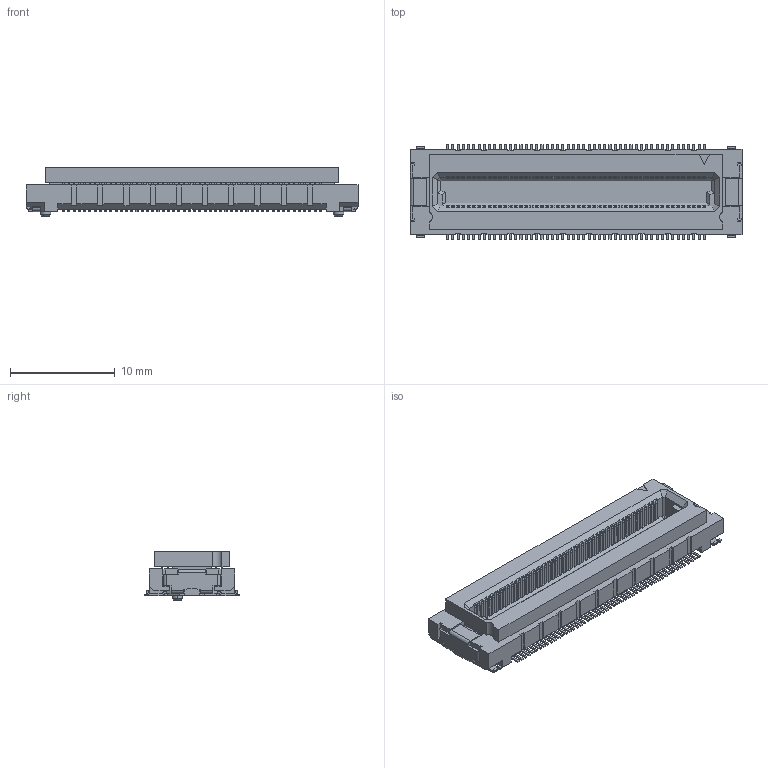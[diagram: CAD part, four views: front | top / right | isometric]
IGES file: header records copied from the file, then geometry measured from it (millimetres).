
Start section: Elysium IGES Interface
Global section: file name: 106HG:\その他\DY関連\CAD\依頼書（ウェブ）_HP用データ\60-36-0111_DY03-DY04\DY03-100S-BT\P3C035_DY03-100S-BT.igs; native system: Creo Elements/Direct Modeling 20.4A  18-Oct-2021; preprocessor: Creo Element/Direct IGES_3D V2.2; author: Unknown; organization: Unknown; date: 20220228.115512; units: millimetre
Bounding box: 31.7 x 9 x 4.65 mm (x, y, z)
Volume: 665.3 mm3; surface area: 1516.5 mm2
Topology: 1 solids, 1 shells, 4271 faces, 11967 edges, 7902 vertices
Faces by surface type: bspline 4271
